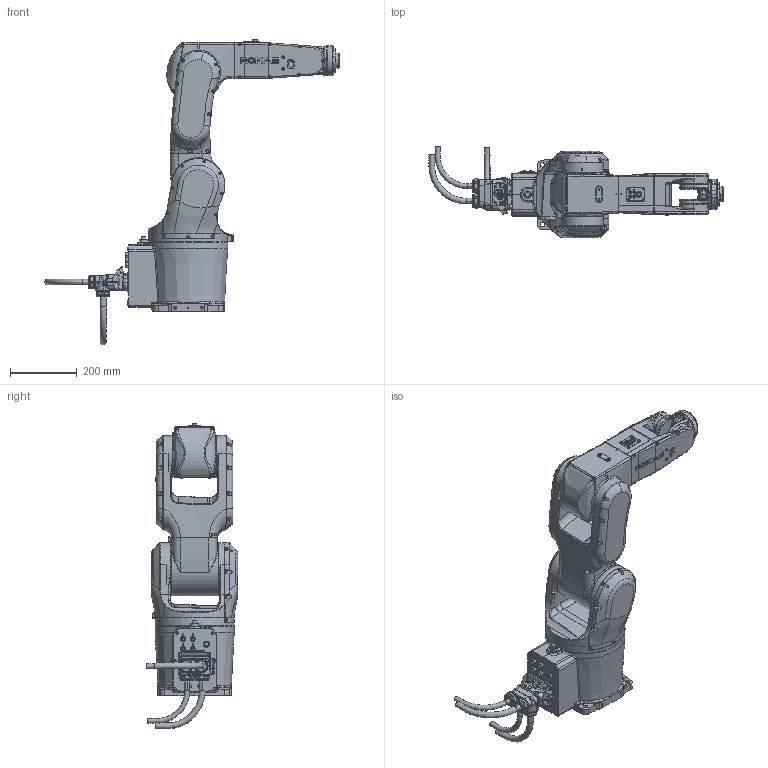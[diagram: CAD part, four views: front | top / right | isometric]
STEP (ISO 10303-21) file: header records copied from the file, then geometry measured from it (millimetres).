
FILE_DESCRIPTION(/* description */ (''),/* implementation_level */ '2;1');
FILE_NAME(/* name */ 'XB7h-R707_stp.stp',/* time_stamp */ '2020-04-16T12:51:47+08:00',/* author */ (''),/* organization */ (''),/* preprocessor_version */ 'ST-DEVELOPER v16',/* originating_system */ 'SIEMENS PLM Software NX 10.0',/* authorisation */ '');
FILE_SCHEMA (('CONFIG_CONTROL_DESIGN'));
Products named in the file (8): XB7h-R707-6; XB7h-R707-5; XB7h-R707-4; XB7h-R707-3; XB7h-R707-2; XB7h-R707-1; XB7h-R707 base; XB7h-R707_stp_stp
Assembly tree (7 placements, depth 2):
  XB7h-R707_stp_stp
    XB7h-R707 base
    XB7h-R707-1
    XB7h-R707-2
    XB7h-R707-3
    XB7h-R707-4
    XB7h-R707-5
    XB7h-R707-6
Bounding box: 884.15 x 275.88 x 918.55 mm (x, y, z)
Volume: 30625708.8 mm3; surface area: 1435019 mm2
Topology: 14 solids, 50 shells, 4465 faces, 10749 edges, 6502 vertices
Faces by surface type: cylinder 1279, plane 1232, bspline 1055, torus 349, cone 343, extrusion 131, sphere 76
Full cylindrical faces by diameter (mm): 3.3 x2, 4.2 x8, 4.826 x1, 5 x2, 5.5 x41, 6 x2, 7 x16, 8.5 x10, 9.5 x3, 9.6 x1, 10 x4, 10.701 x2, 12.8 x1, 13 x1, 13.5 x4, 15 x4, 17.5 x1, 18.5 x1, 22 x1, 50 x2, 55 x1, 86 x2, 100 x2, 119 x1, 120 x1, 170 x1
Entity records: 195070 total; most frequent: CARTESIAN_POINT 103586, ORIENTED_EDGE 20648, DIRECTION 15649, EDGE_CURVE 10324, AXIS2_PLACEMENT_3D 6451, VERTEX_POINT 6422, EDGE_LOOP 4955, ADVANCED_FACE 4455
